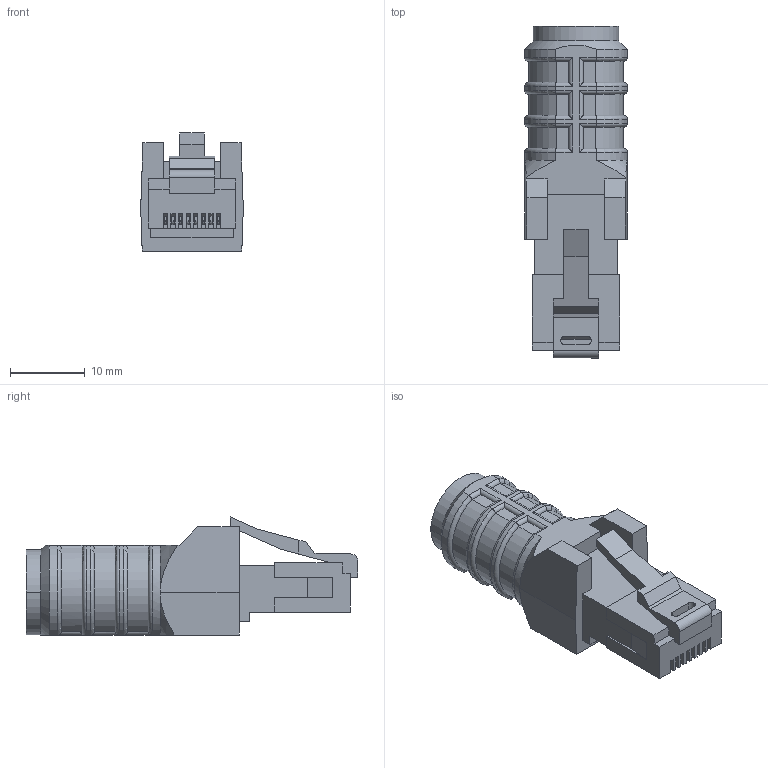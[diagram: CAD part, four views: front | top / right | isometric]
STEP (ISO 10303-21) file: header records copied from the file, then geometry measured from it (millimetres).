
FILE_DESCRIPTION((''),'2;1');
FILE_NAME('C:\TurckZip\MFGD0101.stp','2009-03-05T13:29:10',('IKOROL'),(''),'Autodesk Inventor 2009','Autodesk Inventor 2009','');
FILE_SCHEMA(('CONFIG_CONTROL_DESIGN'));
Length unit declared in the file: millimetre
Products named in the file (1): MFGD0101
Bounding box: 13.75 x 44.48 x 15.82 mm (x, y, z)
Volume: 4814.2 mm3; surface area: 3526.7 mm2
Topology: 1 solids, 1 shells, 414 faces, 1235 edges, 802 vertices
Faces by surface type: plane 291, cylinder 101, torus 12, cone 9, bspline 1
Entity records: 14511 total; most frequent: CARTESIAN_POINT 2866, ORIENTED_EDGE 2470, DIRECTION 2183, EDGE_CURVE 1235, VECTOR 1027, LINE 1027, VERTEX_POINT 802, AXIS2_PLACEMENT_3D 578
